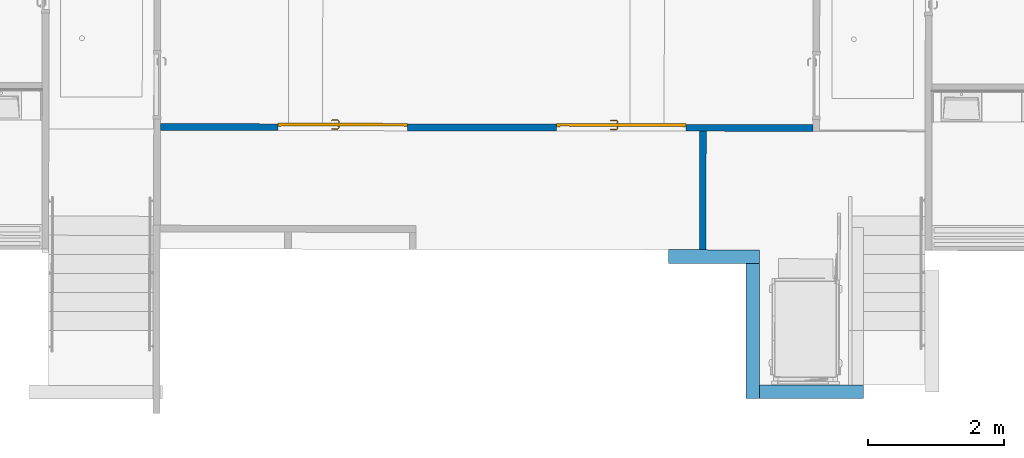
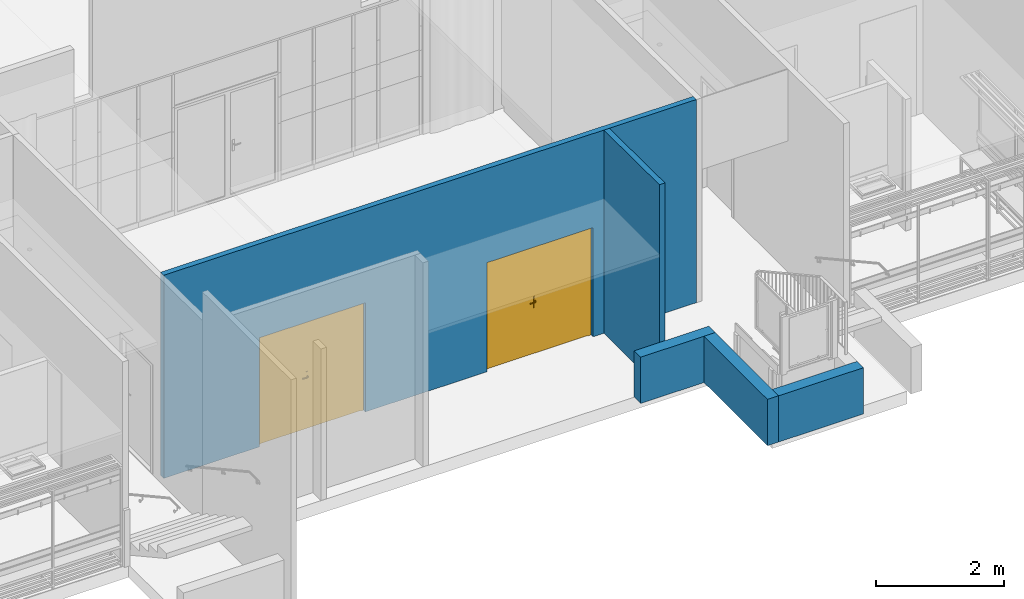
# One storey, part 11 of 43: 5 walls, 2 doors, 2 openings.
"""IFC2X3 building model written with IfcOpenShell, lengths in metres."""

from ifc_helpers import new_model, entity, si_unit, converted_unit, derived_unit, direction, frame, frame_2d, origin, place, context, subcontext, project, spatial, polyline, rectangle, outline, extrude, clip, bounded_halfspace, faceted_brep, source, transform, mapped, material, material_list, layer, layer_set, layer_usage, type_object, type_shapes, element, fill, save


model = new_model("IFC2X3")

# Units and contexts
model_context = context("Model", 3, precision=1e-05, world=origin(), true_north=direction((6.123233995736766e-17, 1.0)))
body_context = subcontext(model_context, "Body", "Model", "MODEL_VIEW")
ifc_project = project(units=[si_unit("LENGTHUNIT", "METRE"), si_unit("AREAUNIT", "SQUARE_METRE"), converted_unit("PLANEANGLEUNIT", "DEGREE", entity("IfcPlaneAngleMeasure", 0.017453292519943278), si_unit("PLANEANGLEUNIT", "RADIAN"), dimensions=[0, 0, 0, 0, 0, 0, 0]), derived_unit("THERMALTRANSMITTANCEUNIT", [(si_unit("MASSUNIT", "GRAM", prefix="KILO"), 1), (si_unit("THERMODYNAMICTEMPERATUREUNIT", "KELVIN"), -1), (si_unit("TIMEUNIT", "SECOND"), -3)])], contexts=[model_context])

# Site, building, storey
site_placement = place(None, frame((1253.6752467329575, 2072.143113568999, 91.49999999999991), z_axis=(0.0, 0.0, 1.0), x_axis=(0.7237211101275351, 0.6900925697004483, 0.0)))
site = spatial("IfcSite", under=ifc_project, at=site_placement, Name="Surface", CompositionType="ELEMENT")
building_placement = place(site_placement, origin())
building = spatial("IfcBuilding", under=site, at=building_placement, CompositionType="ELEMENT")
storey_placement = place(building_placement, frame((0.0, 0.0, -4.629999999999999)))
storey = spatial("IfcBuildingStorey", under=building, at=storey_placement, Name="rez de rue -1.10m", CompositionType="ELEMENT", Elevation=-4.629999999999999)

# Wall, openings, doors
ifc_material_1 = material(Name="OMD_Cloison 100mm CF1h")
ifc_layer_1 = layer(ifc_material_1, 0.1)
ifc_layer_set_1 = layer_set([ifc_layer_1], Name="Mur de base:Cloison 100mm CF1h")
ifc_layer_usage_1 = layer_usage(ifc_layer_set_1, "AXIS2", "POSITIVE", -0.05)
wall_type_1 = type_object("IfcWallType", Name="Mur de base:Cloison 100mm CF1h", PredefinedType="STANDARD", material=ifc_layer_set_1)
wall_1_placement = place(storey_placement, frame((172.47691811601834, -8.35025659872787, 0.0), z_axis=(0.0, 0.0, 1.0), x_axis=(-0.7227070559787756, 0.6911544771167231, 0.0)))
wall_1 = element("IfcWallStandardCase", 1, at=wall_1_placement, inside=storey, type_object=wall_type_1, material=ifc_layer_usage_1, Name="Mur de base:Cloison 100mm CF1h", ObjectType="Mur de base:Cloison 100mm CF1h", context=body_context, shape_type="Clipping", body=[
    clip(extrude(outline(polyline([(2.361177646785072e-05, -0.050000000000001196), (9.567264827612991, -0.04999999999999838), (9.567264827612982, 0.049999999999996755), (1.6623357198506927, 0.04999999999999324), (1.5623357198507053, 0.04999999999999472), (0.0, 0.049999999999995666), (2.361177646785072e-05, -0.050000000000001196)])), origin(), (0.0, 0.0, 1.0), 3.861855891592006), bounded_halfspace(frame((2.3611776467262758e-05, -0.050000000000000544, 3.860965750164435), z_axis=(0.0, -0.00890106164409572, 0.9999603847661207), x_axis=(1.0, 0.0, 0.0)), False, frame((2.3611776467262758e-05, -0.050000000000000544, 3.860965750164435)), polyline([(0.0, 0.0), (9.567241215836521, 0.0), (9.56724121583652, 0.09999999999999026), (1.6623121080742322, 0.0999999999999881), (1.5623121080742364, 0.10000000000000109), (-2.3611776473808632e-05, 0.09999999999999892), (0.0, 0.0)]))),
])
opening_1_placement = place(wall_1_placement, frame((3.7579945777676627, 0.050000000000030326, 0.0)))
opening_1 = element("IfcOpeningElement", 2, at=opening_1_placement, cuts=wall_1, Name="Double (T):1.83m x 2.04m:1", ObjectType="Opening", context=body_context, shape_type="SweptSolid", body=[
    extrude(rectangle(XDim=2.0749999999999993, YDim=1.8999999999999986, at=frame_2d((1.0374999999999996, 0.9500000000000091), x_axis=(1.0, 0.0))), frame((0.0, 0.0, 0.0), z_axis=(0.0, -1.0, 0.0), x_axis=(0.0, 0.0, 1.0)), (0.0, 0.0, 1.0), 0.1),
])
opening_2_placement = place(wall_1_placement, frame((7.847156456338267, 0.04999999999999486, 0.0)))
opening_2 = element("IfcOpeningElement", 3, at=opening_2_placement, cuts=wall_1, Name="Double (T):1.83m x 2.04m:1", ObjectType="Opening", context=body_context, shape_type="SweptSolid", body=[
    extrude(rectangle(XDim=2.0749999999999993, YDim=1.8999999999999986, at=frame_2d((1.0374999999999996, 0.9500000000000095), x_axis=(1.0, 0.0))), frame((0.0, 0.0, 0.0), z_axis=(0.0, -1.0, 0.0), x_axis=(0.0, 0.0, 1.0)), (0.0, 0.0, 1.0), 0.1),
])
ifc_material_2 = material(Name="Porte - Poignée")
ifc_material_3 = material(Name="Porte - Cadre")
ifc_material_4 = material(Name="Porte - Panneau")
ifc_material_list = material_list([ifc_material_2, ifc_material_3, ifc_material_4])
door_style = type_object("IfcDoorStyle", Name="Double (T):1.83m x 2.04m", ConstructionType="NOTDEFINED", OperationType="DOUBLE_DOOR_SINGLE_SWING", ParameterTakesPrecedence=False, Sizeable=False, material=ifc_material_list)
shared_shape = source(origin(), body_context, "Body", "Brep", [
    faceted_brep([(1.0029747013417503, 0.0350000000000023, 1.007780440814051), (0.9989999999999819, 0.0350000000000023, 1.0069999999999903), (0.998999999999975, 0.0350000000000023, 0.9929999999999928), (1.0029747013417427, 0.0350000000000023, 0.9922195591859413), (1.0070252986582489, 0.0350000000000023, 0.9922195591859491), (1.0110000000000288, 0.0350000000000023, 0.9930000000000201), (1.0110000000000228, 0.0350000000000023, 1.006999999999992), (1.0070252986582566, 0.0350000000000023, 1.0077804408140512), (1.0110000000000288, 0.05748520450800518, 0.9930000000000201), (1.0110000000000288, 0.057485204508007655, 1.006999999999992), (1.0070252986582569, 0.05913157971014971, 1.0077804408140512), (1.0208389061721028, 0.07294518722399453, 1.0077804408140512), (1.019161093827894, 0.07699578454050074, 1.007780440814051), (1.0029747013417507, 0.06080939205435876, 1.007780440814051), (1.110684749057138, 0.0664673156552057, 1.007780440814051), (1.1135489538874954, 0.0693315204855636, 1.0077804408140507), (1.1058846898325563, 0.07699578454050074, 1.0077804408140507), (1.1042068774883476, 0.0729451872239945, 1.007780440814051), (0.998999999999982, 0.062455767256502, 1.0069999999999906), (0.9989999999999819, 0.062455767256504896, 0.9929999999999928), (1.0029747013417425, 0.060809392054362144, 0.9922195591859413), (1.0191610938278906, 0.07699578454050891, 0.9922195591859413), (1.0208389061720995, 0.0729451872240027, 0.9922195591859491), (1.0070252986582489, 0.05913157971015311, 0.9922195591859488), (1.113548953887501, 0.06933152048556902, 0.9922195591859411), (1.1106847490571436, 0.06646731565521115, 0.9922195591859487), (1.104206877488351, 0.07294518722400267, 0.9922195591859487), (1.1058846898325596, 0.0769957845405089, 0.9922195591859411), (1.022485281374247, 0.06897048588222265, 0.9930000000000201), (1.022485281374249, 0.06897048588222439, 1.006999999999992), (1.0175147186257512, 0.08097048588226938, 1.0069999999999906), (1.017514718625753, 0.08097048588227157, 0.9929999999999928), (1.0625228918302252, 0.06897048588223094, 0.9930000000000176), (1.1025605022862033, 0.06897048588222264, 0.9930000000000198), (1.1025605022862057, 0.0689704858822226, 1.0069999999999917), (1.0625228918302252, 0.06897048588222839, 1.006999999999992), (1.0625228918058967, 0.07512492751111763, 1.0078781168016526), (1.107531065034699, 0.08097048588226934, 1.0069999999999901), (1.0676005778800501, 0.0809704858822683, 1.0069999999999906), (1.107531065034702, 0.08097048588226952, 0.9929999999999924), (1.0574452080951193, 0.08097048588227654, 0.9929999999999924), (1.0625228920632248, 0.07512492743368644, 0.9921218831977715), (1.1078742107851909, 0.06365677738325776, 0.9930000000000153), (1.1163594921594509, 0.0721420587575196, 0.9929999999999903), (1.1163594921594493, 0.07214205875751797, 1.006999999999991), (1.10787421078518, 0.06365677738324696, 1.00699999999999)], [[[0, 1, 2, 3, 4, 5, 6, 7]], [[6, 5, 8, 9]], [[9, 10, 7, 6]], [[10, 11, 12, 13, 0, 7]], [[14, 15, 16, 17]], [[13, 18, 1, 0]], [[2, 1, 18, 19]], [[19, 20, 3, 2]], [[20, 21, 22, 23, 4, 3]], [[24, 25, 26, 27]], [[23, 8, 5, 4]], [[9, 8, 28, 29]], [[29, 11, 10, 9]], [[12, 30, 18, 13]], [[19, 18, 30, 31]], [[31, 21, 20, 19]], [[22, 28, 8, 23]], [[29, 28, 32, 33, 34, 35]], [[11, 35, 36]], [[16, 37, 38]], [[30, 12, 38]], [[38, 12, 36]], [[36, 35, 17]], [[17, 16, 36]], [[35, 11, 29]], [[34, 17, 35]], [[11, 36, 12]], [[38, 36, 16]], [[31, 30, 38, 37, 39, 40]], [[40, 41, 21]], [[41, 40, 27]], [[21, 31, 40]], [[39, 27, 40]], [[41, 32, 22]], [[22, 21, 41]], [[26, 32, 41]], [[28, 22, 32]], [[32, 26, 33]], [[26, 41, 27]], [[42, 25, 24, 43, 44, 15, 14, 45]], [[34, 33, 42, 45]], [[45, 14, 17, 34]], [[15, 44, 37, 16]], [[39, 37, 44, 43]], [[43, 24, 27, 39]], [[25, 42, 33, 26]]]),
    faceted_brep([(1.0029747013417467, -0.014999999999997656, 1.0077804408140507), (1.007025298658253, -0.014999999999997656, 1.0077804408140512), (1.0110000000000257, -0.014999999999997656, 1.0069999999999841), (1.0110000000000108, -0.014999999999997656, 0.9930000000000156), (1.007025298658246, -0.014999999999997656, 0.9922195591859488), (1.0029747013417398, -0.014999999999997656, 0.9922195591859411), (0.9989999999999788, -0.014999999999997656, 0.9929999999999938), (0.9989999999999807, -0.014999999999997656, 1.006999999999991), (0.9989999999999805, -0.0426509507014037, 1.006999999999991), (1.0029747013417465, -0.04100457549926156, 1.0077804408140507), (1.0190235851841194, -0.05705345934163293, 1.0077804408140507), (1.0207013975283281, -0.05300286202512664, 1.0077804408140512), (1.0070252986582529, -0.03932676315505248, 1.0077804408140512), (1.11352181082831, -0.04938919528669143, 1.0077804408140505), (1.110657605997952, -0.046524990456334, 1.007780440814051), (1.1041797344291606, -0.053002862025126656, 1.007780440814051), (1.1058575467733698, -0.05705345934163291, 1.0077804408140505), (1.011000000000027, -0.03768038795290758, 1.0069999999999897), (1.0110000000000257, -0.03768038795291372, 0.9930000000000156), (1.007025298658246, -0.03932676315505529, 0.9922195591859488), (1.0207013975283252, -0.05300286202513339, 0.9922195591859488), (1.0190235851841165, -0.05705345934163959, 0.9922195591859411), (1.0029747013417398, -0.04100457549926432, 0.9922195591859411), (1.1106576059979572, -0.04652499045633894, 0.9922195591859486), (1.113521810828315, -0.04938919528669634, 0.9922195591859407), (1.1058575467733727, -0.05705345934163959, 0.9922195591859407), (1.1041797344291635, -0.05300286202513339, 0.9922195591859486), (0.9989999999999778, -0.04265095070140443, 0.9929999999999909), (1.0173772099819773, -0.061028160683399, 1.006999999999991), (1.022347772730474, -0.04902816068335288, 1.0069999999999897), (1.022347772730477, -0.04902816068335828, 0.9930000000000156), (1.017377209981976, -0.0610281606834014, 0.9929999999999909), (1.0573076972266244, -0.06102816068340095, 1.0069999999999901), (1.0624405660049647, -0.055182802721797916, 1.0078781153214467), (1.107503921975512, -0.061028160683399, 1.0069999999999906), (1.062440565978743, -0.04902816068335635, 1.0069999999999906), (1.1025333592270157, -0.04902816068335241, 1.0069999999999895), (1.102533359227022, -0.04902816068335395, 0.9930000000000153), (1.0624405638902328, -0.0490281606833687, 0.9930000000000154), (1.0624405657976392, -0.05518280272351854, 0.9921218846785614), (1.1075039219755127, -0.061028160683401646, 0.9929999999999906), (1.0675734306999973, -0.061028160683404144, 0.9929999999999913), (1.1078470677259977, -0.04371445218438, 1.0069999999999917), (1.1163323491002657, -0.05219973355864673, 1.0069999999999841), (1.1163323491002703, -0.05219973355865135, 0.9929999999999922), (1.1078470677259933, -0.04371445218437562, 0.9930000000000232)], [[[0, 1, 2, 3, 4, 5, 6, 7]], [[8, 9, 0, 7]], [[9, 10, 11, 12, 1, 0]], [[13, 14, 15, 16]], [[12, 17, 2, 1]], [[3, 2, 17, 18]], [[18, 19, 4, 3]], [[19, 20, 21, 22, 5, 4]], [[23, 24, 25, 26]], [[22, 27, 6, 5]], [[7, 6, 27, 8]], [[28, 10, 9, 8]], [[11, 29, 17, 12]], [[18, 17, 29, 30]], [[30, 20, 19, 18]], [[21, 31, 27, 22]], [[8, 27, 31, 28]], [[32, 33, 10]], [[33, 32, 16]], [[10, 28, 32]], [[34, 16, 32]], [[33, 35, 11]], [[11, 10, 33]], [[15, 35, 33]], [[29, 11, 35]], [[35, 15, 36]], [[15, 33, 16]], [[30, 29, 35, 36, 37, 38]], [[20, 38, 39]], [[25, 40, 41]], [[31, 21, 41]], [[41, 21, 39]], [[39, 38, 26]], [[26, 25, 39]], [[38, 20, 30]], [[37, 26, 38]], [[20, 39, 21]], [[41, 39, 25]], [[28, 31, 41, 40, 34, 32]], [[42, 14, 13, 43, 44, 24, 23, 45]], [[43, 13, 16, 34]], [[14, 42, 36, 15]], [[37, 36, 42, 45]], [[45, 23, 26, 37]], [[24, 44, 40, 25]], [[34, 40, 44, 43]]]),
    faceted_brep([(1.0153527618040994, 0.03000000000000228, 0.8660039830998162), (1.0249999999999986, 0.030000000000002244, 0.8700000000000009), (1.0249999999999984, 0.030000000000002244, 1.0800000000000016), (1.0153527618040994, 0.03000000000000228, 1.0839960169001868), (1.0049999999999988, 0.030000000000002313, 1.0853589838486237), (0.9946472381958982, 0.03000000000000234, 1.0839960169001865), (0.9849999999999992, 0.030000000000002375, 1.0800000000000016), (0.9849999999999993, 0.030000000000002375, 0.8700000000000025), (0.9946472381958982, 0.03000000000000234, 0.866003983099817), (1.0049999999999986, 0.030000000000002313, 0.8646410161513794), (1.0153527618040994, 0.03500000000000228, 1.0839960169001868), (1.0249999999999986, 0.035000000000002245, 1.0800000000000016), (1.0249999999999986, 0.035000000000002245, 0.8700000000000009), (1.0153527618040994, 0.03500000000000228, 0.8660039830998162), (1.0049999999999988, 0.035000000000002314, 0.8646410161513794), (0.9946472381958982, 0.03500000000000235, 0.866003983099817), (0.9849999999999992, 0.035000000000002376, 0.8700000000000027), (0.9849999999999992, 0.035000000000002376, 1.0800000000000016), (0.9946472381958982, 0.03500000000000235, 1.0839960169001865), (1.0049999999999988, 0.035000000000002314, 1.0853589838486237)], [[[0, 1, 2, 3, 4, 5, 6, 7, 8, 9]], [[10, 11, 12, 13, 14, 15, 16, 17, 18, 19]], [[11, 10, 3, 2]], [[3, 10, 19, 4]], [[19, 18, 5, 4]], [[18, 17, 6, 5]], [[7, 6, 17, 16]], [[16, 15, 8, 7]], [[8, 15, 14, 9]], [[14, 13, 0, 9]], [[13, 12, 1, 0]], [[2, 1, 12, 11]]]),
    faceted_brep([(1.0153527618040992, -0.0149999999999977, 0.8660039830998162), (1.0249999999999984, -0.014999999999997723, 0.8700000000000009), (1.0249999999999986, -0.014999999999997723, 1.0800000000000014), (1.0153527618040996, -0.0149999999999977, 1.0839960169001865), (1.004999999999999, -0.014999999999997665, 1.0853589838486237), (0.9946472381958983, -0.014999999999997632, 1.0839960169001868), (0.9849999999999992, -0.014999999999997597, 1.0800000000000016), (0.984999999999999, -0.014999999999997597, 0.8700000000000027), (0.9946472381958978, -0.014999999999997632, 0.8660039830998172), (1.0049999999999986, -0.014999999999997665, 0.8646410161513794), (1.0153527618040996, -0.009999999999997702, 1.0839960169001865), (1.0249999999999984, -0.009999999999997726, 1.0800000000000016), (1.0249999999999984, -0.009999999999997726, 0.8700000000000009), (1.0153527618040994, -0.009999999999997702, 0.8660039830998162), (1.0049999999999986, -0.009999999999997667, 0.8646410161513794), (0.9946472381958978, -0.009999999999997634, 0.8660039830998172), (0.984999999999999, -0.0099999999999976, 0.8700000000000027), (0.9849999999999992, -0.0099999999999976, 1.0800000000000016), (0.9946472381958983, -0.009999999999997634, 1.0839960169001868), (1.004999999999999, -0.009999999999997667, 1.0853589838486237)], [[[0, 1, 2, 3, 4, 5, 6, 7, 8, 9]], [[10, 11, 12, 13, 14, 15, 16, 17, 18, 19]], [[16, 15, 8, 7]], [[8, 15, 14, 9]], [[14, 13, 0, 9]], [[13, 12, 1, 0]], [[2, 1, 12, 11]], [[11, 10, 3, 2]], [[3, 10, 19, 4]], [[19, 18, 5, 4]], [[18, 17, 6, 5]], [[7, 6, 17, 16]]]),
    faceted_brep([(0.0, 0.04000000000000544, 0.0), (0.04999999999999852, 0.04000000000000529, 0.0), (0.04999999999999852, 0.03000000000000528, 0.0), (0.03499999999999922, 0.030000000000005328, 0.0), (0.03499999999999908, -0.009999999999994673, 0.0), (0.0, -0.009999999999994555, 0.0), (0.0, 0.04000000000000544, 2.0749999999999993), (1.8999999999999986, 0.039999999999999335, 2.074999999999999), (1.8999999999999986, 0.039999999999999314, 0.0), (1.85, 0.03999999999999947, 0.0), (1.85, 0.0399999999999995, 2.025000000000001), (0.04999999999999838, 0.040000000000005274, 2.025000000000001), (0.04999999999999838, 0.03000000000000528, 2.025000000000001), (1.85, 0.029999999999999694, 2.025000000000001), (1.85, 0.029999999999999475, 0.0), (1.8649999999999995, 0.029999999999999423, 0.0), (1.8649999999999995, 0.029999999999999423, 2.04), (0.03499999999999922, 0.030000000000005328, 2.04), (0.03499999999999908, -0.009999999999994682, 2.04), (1.8649999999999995, -0.010000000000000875, 2.04), (1.8649999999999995, -0.010000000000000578, 0.0), (1.8999999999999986, -0.010000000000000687, 0.0), (1.8999999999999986, -0.010000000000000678, 2.0749999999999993), (0.0, -0.009999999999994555, 2.0749999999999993)], [[[0, 1, 2, 3, 4, 5]], [[1, 0, 6, 7, 8, 9, 10, 11]], [[2, 1, 11, 12]], [[3, 2, 12, 13, 14, 15, 16, 17]], [[4, 3, 17, 18]], [[5, 4, 18, 19, 20, 21, 22, 23]], [[0, 5, 23, 6]], [[7, 22, 21, 8]], [[8, 21, 20, 15, 14, 9]], [[13, 10, 9, 14]], [[19, 16, 15, 20]], [[12, 11, 10, 13]], [[18, 17, 16, 19]], [[6, 23, 22, 7]]]),
    faceted_brep([(1.8649999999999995, -0.010000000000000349, 0.0), (1.864999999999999, -0.010000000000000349, 2.04), (0.9499999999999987, -0.009999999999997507, 2.04), (0.9499999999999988, -0.009999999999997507, 0.0), (1.8649999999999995, 0.02999999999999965, 0.0), (0.949999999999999, 0.030000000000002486, 0.0), (0.9499999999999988, 0.030000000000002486, 2.04), (1.8649999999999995, 0.02999999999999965, 2.04)], [[[0, 1, 2, 3]], [[4, 5, 6, 7]], [[1, 0, 4, 7]], [[2, 1, 7, 6]], [[3, 2, 6, 5]], [[0, 3, 5, 4]]]),
    faceted_brep([(0.03499999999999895, -0.009999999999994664, 2.04), (0.03499999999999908, -0.009999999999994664, 0.0), (0.9499999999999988, -0.009999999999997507, 0.0), (0.9499999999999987, -0.009999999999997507, 2.04), (0.03499999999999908, 0.030000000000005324, 2.04), (0.9499999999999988, 0.030000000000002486, 2.04), (0.949999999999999, 0.030000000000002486, 0.0), (0.03499999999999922, 0.030000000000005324, 0.0)], [[[0, 1, 2, 3]], [[4, 5, 6, 7]], [[1, 0, 4, 7]], [[2, 1, 7, 6]], [[3, 2, 6, 5]], [[0, 3, 5, 4]]]),
])
type_shapes(door_style, [shared_shape])
door_1_placement = place(opening_2_placement, frame((-1.9000000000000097, -0.10000000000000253, 0.0)))
door_1 = element("IfcDoor", 4, at=door_1_placement, inside=storey, type_object=door_style, material=ifc_material_list, Name="Double (T):1.83m x 2.04m", ObjectType="Double (T):1.83m x 2.04m", OverallHeight=2.0749999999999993, OverallWidth=1.9000000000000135, context=body_context, shape_type="MappedRepresentation", body=[
    mapped(shared_shape, transform((0.0, 0.0, 0.0), scale=1.0)),
])
fill(opening_2, door_1)
door_2_placement = place(opening_1_placement, frame((-1.900000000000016, -0.10000000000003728, 0.0)))
door_2 = element("IfcDoor", 5, at=door_2_placement, inside=storey, type_object=door_style, material=ifc_material_list, Name="Double (T):1.83m x 2.04m", ObjectType="Double (T):1.83m x 2.04m", OverallHeight=2.0749999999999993, OverallWidth=1.9000000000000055, context=body_context, shape_type="MappedRepresentation", body=[
    mapped(shared_shape, transform((0.0, 0.0, 0.0), scale=1.0)),
])
fill(opening_1, door_2)

# Walls
ifc_layer_usage_2 = layer_usage(ifc_layer_set_1, "AXIS2", "NEGATIVE", 0.05)
wall_2_placement = place(storey_placement, frame((170.0754599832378, -8.528530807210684, 0.0), z_axis=(0.0, 0.0, 1.0), x_axis=(0.691154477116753, 0.722707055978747, 0.0)))
element("IfcWallStandardCase", 6, at=wall_2_placement, inside=storey, type_object=wall_type_1, material=ifc_layer_usage_2, Name="Mur de base:Cloison 100mm CF1h", ObjectType="Mur de base:Cloison 100mm CF1h", context=body_context, shape_type="Clipping", body=[
    clip(extrude(rectangle(XDim=1.7386185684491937, YDim=0.1000000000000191, at=frame_2d((0.8693092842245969, 4.2327252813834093e-16), x_axis=(-1.0, 0.0))), origin(), (0.0, 0.0, 1.0), 3.8773320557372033), bounded_halfspace(frame((0.0, -0.04999999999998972, 3.8773320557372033), z_axis=(0.00890106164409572, 0.0, 0.9999603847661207), x_axis=(0.0, 1.0, 0.0)), False, frame((0.0, -0.04999999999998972, 3.8773320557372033)), polyline([(0.0, 0.0), (1.7386185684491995, 0.0), (1.738618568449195, 0.09999999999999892), (0.0, 0.10000000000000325), (0.0, 0.0)]))),
])
ifc_material_5 = material(Name="Béton - Béton coulé sur place")
ifc_layer_2 = layer(ifc_material_5, 0.2)
ifc_layer_set_2 = layer_set([ifc_layer_2], Name="Mur de base:BA 20")
ifc_layer_usage_3 = layer_usage(ifc_layer_set_2, "AXIS2", "NEGATIVE", 0.1)
wall_type_2 = type_object("IfcWallType", Name="Mur de base:BA 20", PredefinedType="STANDARD", material=ifc_layer_set_2)
wall_3_placement = place(storey_placement, frame((169.6412725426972, -8.251844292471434, 0.0), z_axis=(0.0, 0.0, 1.0), x_axis=(0.7228702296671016, -0.6909838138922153, 0.0)))
element("IfcWallStandardCase", 7, at=wall_3_placement, inside=storey, type_object=wall_type_2, material=ifc_layer_usage_3, Name="Mur de base:BA 20", ObjectType="Mur de base:BA 20", context=body_context, shape_type="SweptSolid", body=[
    extrude(rectangle(XDim=1.3404076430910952, YDim=0.20000000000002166, at=frame_2d((0.6702038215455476, -1.0477729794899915e-15), x_axis=(-1.0, 0.0))), origin(), (0.0, 0.0, 1.0), 0.8799999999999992),
])
ifc_layer_usage_4 = layer_usage(ifc_layer_set_2, "AXIS2", "NEGATIVE", 0.1)
wall_4_placement = place(storey_placement, frame((170.4688279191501, -9.181232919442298, 0.0), z_axis=(0.0, 0.0, 1.0), x_axis=(-0.690983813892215, -0.722870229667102, 0.0)))
element("IfcWallStandardCase", 8, at=wall_4_placement, inside=storey, type_object=wall_type_2, material=ifc_layer_usage_4, Name="Mur de base:BA 20", ObjectType="Mur de base:BA 20", context=body_context, shape_type="SweptSolid", body=[
    extrude(outline(polyline([(-0.12085634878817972, -0.83191567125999), (0.07914375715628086, -0.8319156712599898), (0.07934961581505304, -0.6319156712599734), (0.08118143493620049, 1.1477705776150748), (-0.11881845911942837, 1.147976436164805), (-0.12085634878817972, -0.83191567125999)])), frame((1.1478535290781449, 0.02000000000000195, 0.0), z_axis=(0.0, 0.0, 1.0), x_axis=(-0.0010292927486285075, 0.9999994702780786, 0.0)), (0.0, 0.0, 1.0), 0.8799999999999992),
])
ifc_layer_usage_5 = layer_usage(ifc_layer_set_2, "AXIS2", "NEGATIVE", 0.1)
wall_5_placement = place(storey_placement, frame((169.2422070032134, -10.609030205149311, 0.0), z_axis=(0.0, 0.0, 1.0), x_axis=(0.723581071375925, -0.6902394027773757, 0.0)))
element("IfcWallStandardCase", 9, at=wall_5_placement, inside=storey, type_object=wall_type_2, material=ifc_layer_usage_5, Name="Mur de base:BA 20", ObjectType="Mur de base:BA 20", context=body_context, shape_type="Clipping", body=[
    clip(extrude(outline(polyline([(0.0, -0.10000000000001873), (1.5247584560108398, -0.10000000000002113), (1.5249643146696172, 0.09999999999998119), (1.324964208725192, 0.09999999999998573), (0.00020585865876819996, 0.09999999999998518), (0.0, -0.10000000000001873)])), origin(), (0.0, 0.0, 1.0), 0.8799999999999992), bounded_halfspace(frame((0.0, -0.10000000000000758, 0.8799999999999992), z_axis=(0.0, 0.0, -1.0), x_axis=(0.9999999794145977, 0.00020290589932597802, 0.0)), True, frame((0.0, -0.10000000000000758, 0.8799999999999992)), polyline([(0.0, 0.0), (1.5247584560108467, 0.0), (1.52496431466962, 0.19999999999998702), (1.324964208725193, 0.1999999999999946), (0.0002058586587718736, 0.19999999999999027), (0.0, 0.0)]))),
])

save(model, "model.ifc")
